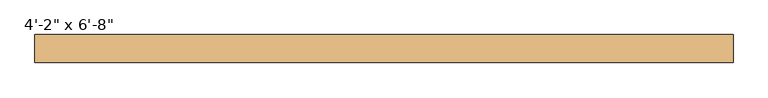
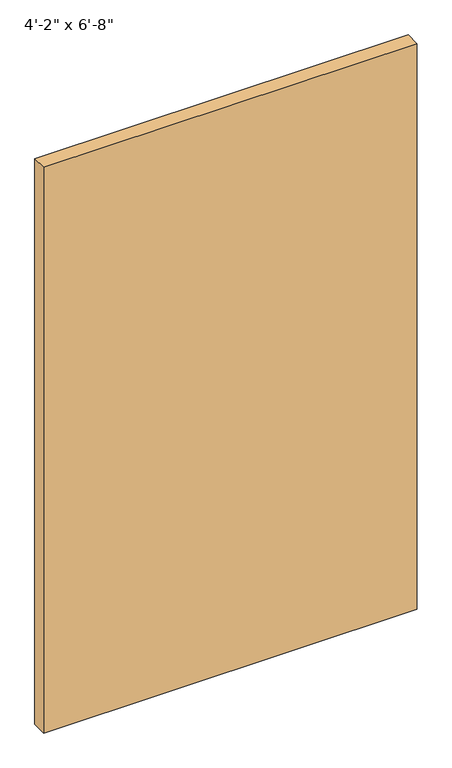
"""IFC4 building model written with IfcOpenShell, lengths in millimetres: door geometry."""

import ifcopenshell
import ifcopenshell.guid

model = None  # the IFC model being written
_history = None  # IfcOwnerHistory: only IFC2X3 demands one
_inside = {}  # id of a spatial element -> (the spatial element, [elements in it])
_under = {}  # id of a project, library or spatial element -> (it, [spatial elements below it])
_declared = {}  # id of a project -> (the project, [libraries it declares])
_typed = {}  # id of a type object -> (the type object, [elements of that type])
_made_of = {}  # id of a material, layer set ... -> (it, [elements and type objects made of it])


def new_model(schema):
    """Start an empty IFC model of exactly this schema.

    Asked for "IFC4X3", IfcOpenShell would pick the latest addendum, in which some entities
    have other attributes; the version numbers below select the first issue.
    IFC2X3 requires an IfcOwnerHistory on every rooted entity: one is made here for all.
    """
    global model, _history
    if schema == "IFC4X3":
        model = ifcopenshell.file(schema_version=(4, 3, 0, 0))
    else:
        model = ifcopenshell.file(schema=schema)
    _inside.clear()
    _under.clear()
    _declared.clear()
    _typed.clear()
    _made_of.clear()
    _history = None
    if model.schema == "IFC2X3":
        org = make("IfcOrganization", Name="unknown")
        user = make(
            "IfcPersonAndOrganization",
            ThePerson=make("IfcPerson", FamilyName="unknown"),
            TheOrganization=org,
        )
        app = make(
            "IfcApplication",
            ApplicationDeveloper=org,
            Version="unknown",
            ApplicationFullName="unknown",
            ApplicationIdentifier="unknown",
        )
        _history = make(
            "IfcOwnerHistory",
            OwningUser=user,
            OwningApplication=app,
            ChangeAction="ADDED",
            CreationDate=0,
        )
    return model


def make(cls, **values):
    """One entity of the class cls with the attributes given. An attribute that is None is left unset."""
    return model.create_entity(
        cls, **{name: value for name, value in values.items() if value is not None}
    )


def rooted(cls, **values):
    """An entity with a GlobalId (a new one), such as an element, a storey or a relation."""
    return make(cls, GlobalId=ifcopenshell.guid.new(), OwnerHistory=_history, **values)


def si_unit(unit_type, name, prefix=None):
    """IfcSIUnit, for example si_unit("LENGTHUNIT", "METRE", prefix="MILLI")."""
    return make("IfcSIUnit", UnitType=unit_type, Prefix=prefix, Name=name)


def assignment(units):
    """IfcUnitAssignment: the units of a project."""
    return None if units is None else make("IfcUnitAssignment", Units=units)


def point(xyz):
    """IfcCartesianPoint."""
    return None if xyz is None else make("IfcCartesianPoint", Coordinates=xyz)


def direction(xyz):
    """IfcDirection."""
    return None if xyz is None else make("IfcDirection", DirectionRatios=xyz)


def frame(location, z_axis=None, x_axis=None):
    """IfcAxis2Placement3D, a coordinate frame: its origin and axes. An axis left out is left unset."""
    return make(
        "IfcAxis2Placement3D",
        Location=point(location),
        Axis=direction(z_axis),
        RefDirection=direction(x_axis),
    )


def origin():
    """The frame at (0, 0, 0) with its axes left unset."""
    return frame((0.0, 0.0, 0.0))


def origin_with_axes():
    """The frame at (0, 0, 0) with the z axis (0, 0, 1) and the x axis (1, 0, 0) written out."""
    return frame((0.0, 0.0, 0.0), z_axis=(0.0, 0.0, 1.0), x_axis=(1.0, 0.0, 0.0))


def place(relative_to, where):
    """IfcLocalPlacement: puts the frame where relative to a parent placement (None: the world)."""
    return make(
        "IfcLocalPlacement", PlacementRelTo=relative_to, RelativePlacement=where
    )


def context(
    kind, dimensions, precision=None, world=None, true_north=None, identifier=None
):
    """IfcGeometricRepresentationContext, for example the 3D "Model" context."""
    return make(
        "IfcGeometricRepresentationContext",
        ContextIdentifier=identifier,
        ContextType=kind,
        CoordinateSpaceDimension=dimensions,
        Precision=precision,
        WorldCoordinateSystem=world,
        TrueNorth=true_north,
    )


def project(units=None, contexts=None):
    """IfcProject with its units and contexts."""
    return rooted(
        "IfcProject",
        Name="project",
        RepresentationContexts=contexts,
        UnitsInContext=assignment(units),
    )


def spatial(cls, under=None, at=None, **own):
    """A site, building, storey or space (cls), placed at a placement, below another one or the project."""
    s = rooted(cls, ObjectPlacement=at, **own)
    if under is not None:
        _under.setdefault(under.id(), (under, []))[1].append(s)
    return s


def polyline(points):
    """IfcPolyline through the points."""
    return make("IfcPolyline", Points=[point(p) for p in points])


def outline(outer, holes=None, kind="AREA"):
    """IfcArbitraryClosedProfileDef: a profile drawn as a closed curve; with holes, ...WithVoids."""
    if holes is None:
        return make("IfcArbitraryClosedProfileDef", ProfileType=kind, OuterCurve=outer)
    return make(
        "IfcArbitraryProfileDefWithVoids",
        ProfileType=kind,
        OuterCurve=outer,
        InnerCurves=holes,
    )


def extrude(swept, where, along, depth):
    """IfcExtrudedAreaSolid: the profile swept, set in the frame where, extruded along a direction by depth."""
    return make(
        "IfcExtrudedAreaSolid",
        SweptArea=swept,
        Position=where,
        ExtrudedDirection=direction(along),
        Depth=depth,
    )


def shape(context_of_items, identifier, shape_type, items):
    """IfcShapeRepresentation: the items that make up one representation, for example the "Body"."""
    return make(
        "IfcShapeRepresentation",
        ContextOfItems=context_of_items,
        RepresentationIdentifier=identifier,
        RepresentationType=shape_type,
        Items=items,
    )


def source(mapping_origin, context_of_items, identifier, shape_type, items):
    """IfcRepresentationMap: a shape defined once, which mapped items show again and again."""
    return make(
        "IfcRepresentationMap",
        MappingOrigin=mapping_origin,
        MappedRepresentation=shape(context_of_items, identifier, shape_type, items),
    )


def transform(
    local_origin,
    x_axis=None,
    y_axis=None,
    z_axis=None,
    scale=None,
    scale2=None,
    scale3=None,
    uniform=True,
):
    """IfcCartesianTransformationOperator3D, or its non-uniform kind. x_axis, y_axis, z_axis: its Axis1, 2, 3."""
    if uniform:
        return make(
            "IfcCartesianTransformationOperator3D",
            Axis1=direction(x_axis),
            Axis2=direction(y_axis),
            LocalOrigin=point(local_origin),
            Scale=scale,
            Axis3=direction(z_axis),
        )
    return make(
        "IfcCartesianTransformationOperator3DnonUniform",
        Axis1=direction(x_axis),
        Axis2=direction(y_axis),
        LocalOrigin=point(local_origin),
        Scale=scale,
        Axis3=direction(z_axis),
        Scale2=scale2,
        Scale3=scale3,
    )


def mapped(mapping_source, mapping_target):
    """IfcMappedItem: shows the shape of a source again, moved by a transform."""
    return make(
        "IfcMappedItem", MappingSource=mapping_source, MappingTarget=mapping_target
    )


def made_of(thing, what):
    """Note that an element or type object is made of a material, layer set ...; save() writes the relation."""
    if what is not None:
        _made_of.setdefault(what.id(), (what, []))[1].append(thing)
    return thing


def element(
    cls,
    number,
    at=None,
    inside=None,
    cuts=None,
    type_object=None,
    material=None,
    context=None,
    identifier="Body",
    shape_type=None,
    held_by="IfcProductDefinitionShape",
    body=None,
    shapes=None,
    **own,
):
    """One element of the class cls, such as IfcWall. Its Tag is "e" and its number.

    at: its placement. inside: the storey or other place that contains it. cuts: it is an
    opening in that element (IfcRelVoidsElement). A single representation is given by context,
    identifier, shape_type and body (its items); several are given by shapes. held_by: the class
    of the entity that holds the representations. save() writes the other relations.
    """
    e = rooted(cls, Tag="e%d" % number, ObjectPlacement=at, **own)
    if body is not None:
        shapes = [shape(context, identifier, shape_type, body)]
    if shapes is not None:
        e.Representation = make(held_by, Representations=shapes)
    if inside is not None:
        _inside.setdefault(inside.id(), (inside, []))[1].append(e)
    if cuts is not None:
        rooted(
            "IfcRelVoidsElement", RelatingBuildingElement=cuts, RelatedOpeningElement=e
        )
    if type_object is not None:
        _typed.setdefault(type_object.id(), (type_object, []))[1].append(e)
    return made_of(e, material)


def aggregate(whole, parts):
    """IfcRelAggregates: a whole, such as a stair, and the parts it consists of."""
    return rooted("IfcRelAggregates", RelatingObject=whole, RelatedObjects=parts)


def save(model, path):
    """Write the relations noted so far, then the file.

    IfcRelAggregates (storeys below a building ...), IfcRelContainedInSpatialStructure (elements
    in a storey), IfcRelDefinesByType, IfcRelAssociatesMaterial and IfcRelDeclares: one each for
    every whole, place, type object, material and project.
    """
    for whole, parts in _under.values():
        aggregate(whole, parts)
    for where, things in _inside.values():
        rooted(
            "IfcRelContainedInSpatialStructure",
            RelatedElements=things,
            RelatingStructure=where,
        )
    for kind, things in _typed.values():
        rooted("IfcRelDefinesByType", RelatedObjects=things, RelatingType=kind)
    for what, things in _made_of.values():
        rooted("IfcRelAssociatesMaterial", RelatedObjects=things, RelatingMaterial=what)
    for by, libraries in _declared.values():
        rooted("IfcRelDeclares", RelatingContext=by, RelatedDefinitions=libraries)
    model.write(path)


def door_faa834dd(model_context):
    return source(origin(), model_context, "Body", "SweptSolid", [
        extrude(outline(polyline([(635.0, 6.1515625), (-635.0, 6.1515625), (-635.0, 57.15), (635.0, 57.15), (635.0, 6.1515625)])), origin_with_axes(), (0.0, 0.0, 1.0), 2032.0),
    ])


if __name__ == "__main__":
    model = new_model("IFC4")
    model_context = context("Model", 3, world=origin())
    ifc_project = project(units=[si_unit("LENGTHUNIT", "METRE", prefix="MILLI")], contexts=[model_context])
    site = spatial("IfcSite", under=ifc_project)
    building = spatial("IfcBuilding", under=site)
    placement = place(None, origin())
    door_shape = door_faa834dd(model_context)
    element("IfcDoor", 1, ObjectType="Planitar - Single Door_Flush Panel : 4'-2\" x 6'-8\"", at=placement, inside=building, context=model_context, shape_type="MappedRepresentation", body=[
        mapped(door_shape, transform((0.0, 0.0, 0.0), x_axis=(1.0, 0.0, 0.0), y_axis=(0.0, 1.0, 0.0), z_axis=(0.0, 0.0, 1.0))),
    ])
    save(model, "model.ifc")
